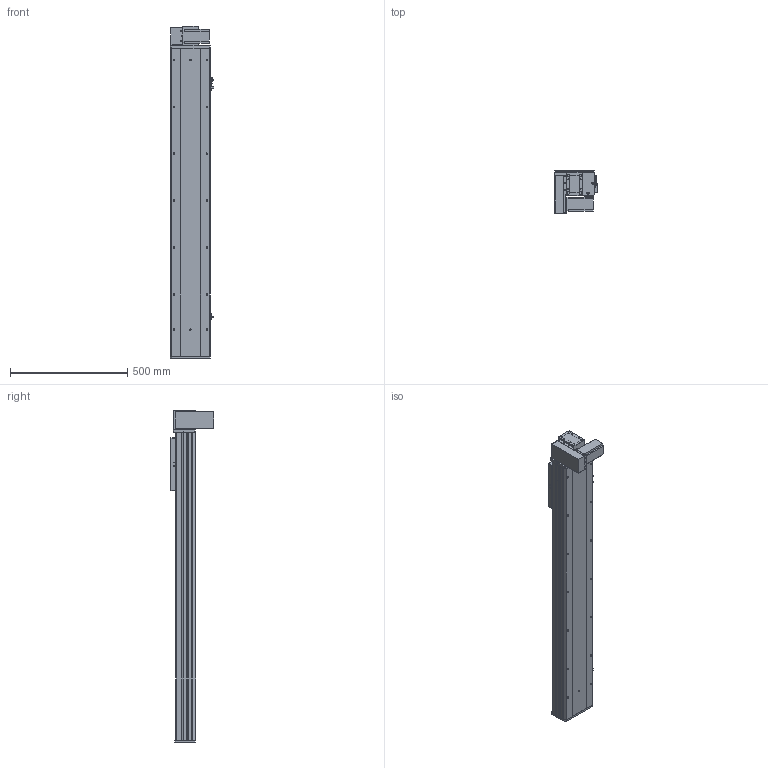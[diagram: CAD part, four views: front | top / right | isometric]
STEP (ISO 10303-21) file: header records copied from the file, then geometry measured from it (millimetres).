
FILE_DESCRIPTION (( 'STEP AP203' ), '1' );
FILE_NAME ('Y170CB-D105-S1000-BM-P400W.STEP', '2020-02-20T06:25:34', ( '微软用户' ), ( '微软中国' ), 'SwSTEP 2.0', 'SolidWorks 2017', '' );
FILE_SCHEMA (( 'CONFIG_CONTROL_DESIGN' ));
Length unit declared in the file: millimetre
Products named in the file (18): 70CB-詩湍--; --70CB --喘謫眊楊擘啣-; Y100-135俋离換覜ん--; 70CB-耜裔啣-; Y170CB-陔俋离換覜結え---; 70C--詩湍揤踡え-; Y1埴倛裔; 17B-耜蚾蟀諉啣----; B-源倛裔啣; 00B-俋欶BM--163; 70CB--耜裔; 0B-萇儂楊擘啣; 70B喘謫眊----; 70C-雄赽釱-奻-; san松下电机400不带刹车----; Y170CB-D105-S1000-BM-P400W; 0C--雄赽釱俋欶-170; 70CB-掛极-
Assembly tree (21 placements, depth 2):
  Y170CB-D105-S1000-BM-P400W
    B-源倛裔啣
    0B-萇儂楊擘啣
    san松下电机400不带刹车----
    70CB-掛极-
    --70CB --喘謫眊楊擘啣-
    70CB-耜裔啣-  x2
    70C--詩湍揤踡え-  x2
    70CB--耜裔
    70C-雄赽釱-奻-
    0C--雄赽釱俋欶-170
    70CB-詩湍--
    Y100-135俋离換覜ん--  x3
    Y170CB-陔俋离換覜結え---
    Y1埴倛裔
    17B-耜蚾蟀諉啣----
    00B-俋欶BM--163
    70B喘謫眊----
Bounding box: 183.5 x 184 x 1416 mm (x, y, z)
Volume: 6539567.6 mm3; surface area: 2343771.2 mm2
Topology: 21 solids, 21 shells, 1007 faces, 2693 edges, 1786 vertices
Faces by surface type: cylinder 521, plane 462, cone 24
Entity records: 32036 total; most frequent: CARTESIAN_POINT 5856, DIRECTION 5210, ORIENTED_EDGE 4868, EDGE_CURVE 2434, AXIS2_PLACEMENT_3D 1908, VERTEX_POINT 1616, LINE 1394, VECTOR 1394
